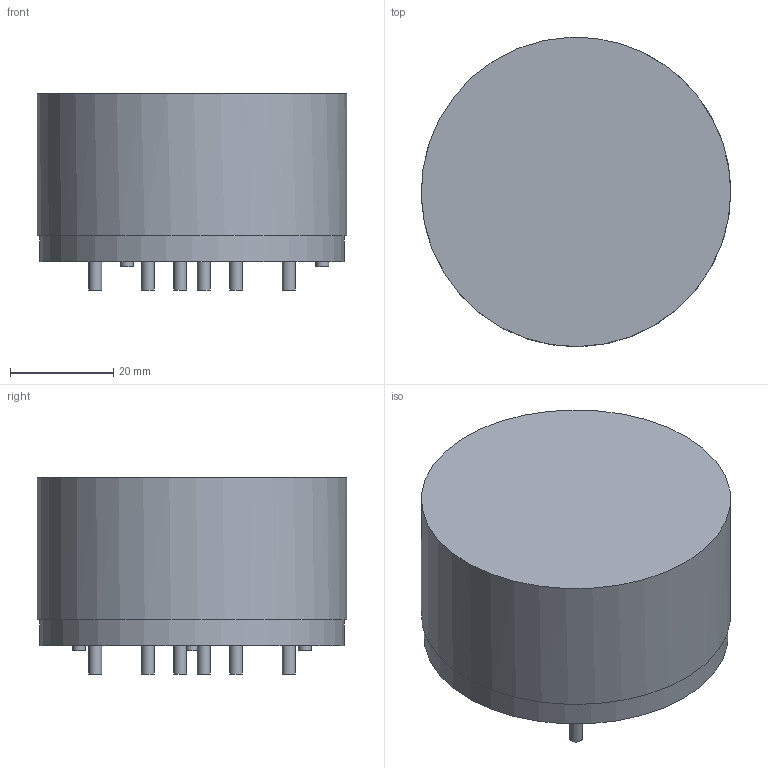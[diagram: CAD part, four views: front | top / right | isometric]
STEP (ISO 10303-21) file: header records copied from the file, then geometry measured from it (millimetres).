
FILE_DESCRIPTION(/* description */ (''),/* implementation_level */ '2;1');
FILE_NAME(/* name */ 'F:\2016年工作\2016年产品图纸\VAC\X2\4EA754C1\X0\3D模型\产品3D模型\6123-X402\6123-X402 3D model.stp',/* time_stamp */ '2016-06-24T16:09:14+08:00',/* author */ ('CN000560'),/* organization */ (''),/* preprocessor_version */ 'ST-DEVELOPER v16.1',/* originating_system */ 'Autodesk Inventor 2016',/* authorisation */ '');
FILE_SCHEMA (('AUTOMOTIVE_DESIGN { 1 0 10303 214 3 1 1 }'));
Length unit declared in the file: millimetre
Products named in the file (1): 6123-X402 3D model
Bounding box: 59.99 x 59.98 x 38 mm (x, y, z)
Volume: 91642.8 mm3; surface area: 12141.3 mm2
Topology: 1 solids, 1 shells, 28 faces, 43 edges, 29 vertices
Faces by surface type: cylinder 14, plane 14
Full cylindrical faces by diameter (mm): 2.5 x11, 60 x1
Entity records: 598 total; most frequent: DIRECTION 116, CARTESIAN_POINT 87, ORIENTED_EDGE 60, AXIS2_PLACEMENT_3D 57, EDGE_LOOP 52, EDGE_CURVE 30, FACE_OUTER_BOUND 28, CIRCLE 28
